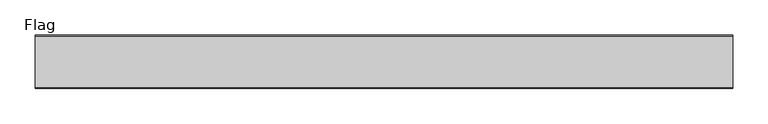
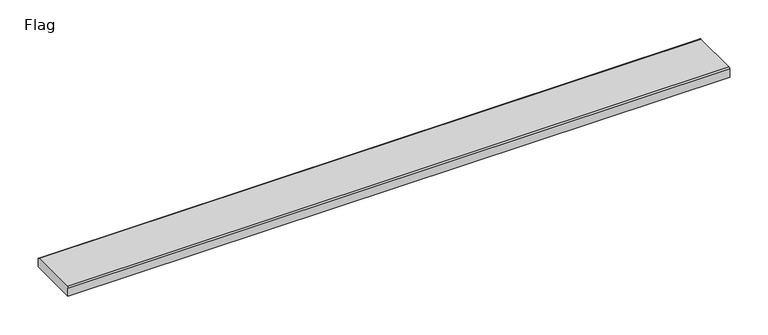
"""IFC4 building model written with IfcOpenShell, lengths in millimetres: sanitary terminal geometry, ZZZ_do not use_PF_UN_grating for ShowerDrain E and M series_ACO : Flag."""

from ifc_helpers import new_model, si_unit, point, frame, frame_2d, origin, place, context, project, spatial, polyline, circle_curve, trimmed, segment, composite_curve, outline, extrude, source, transform, mapped, element, save


def flag_560d45e0(model_context):
    return source(origin(), model_context, "Body", "SweptSolid", [
        extrude(outline(composite_curve([segment(polyline([(38.5, -15.0), (-38.5, -15.0), (-38.5, -1.977849)]), True, "CONTINUOUS"), segment(trimmed(circle_curve(frame_2d((-36.522151, -1.977849)), 1.977849), [point((-38.5, -1.977849))], [point((-36.522151, 0.0))], False, "CARTESIAN"), True, "CONTINUOUS"), segment(polyline([(-36.522151, 0.0), (36.522151, 0.0)]), True, "CONTINUOUS"), segment(trimmed(circle_curve(frame_2d((36.522151, -1.977849)), 1.977849), [point((36.522151, 0.0))], [point((38.5, -1.977849))], False, "CARTESIAN"), True, "CONTINUOUS"), segment(polyline([(38.5, -1.977849), (38.5, -15.0)]), True, "CONTINUOUS")], self_intersect=False)), frame((-498.0, 0.0, 0.0), z_axis=(1.0, 0.0, 0.0), x_axis=(0.0, 1.0, 0.0)), (0.0, 0.0, 1.0), 996.0),
    ])


if __name__ == "__main__":
    model = new_model("IFC4")
    model_context = context("Model", 3, world=origin())
    ifc_project = project(units=[si_unit("LENGTHUNIT", "METRE", prefix="MILLI")], contexts=[model_context])
    site = spatial("IfcSite", under=ifc_project)
    building = spatial("IfcBuilding", under=site)
    placement = place(None, origin())
    flag_shape = flag_560d45e0(model_context)
    element("IfcSanitaryTerminal", 1, ObjectType="ZZZ_do not use_PF_UN_grating for ShowerDrain E and M series_ACO : Flag", at=placement, inside=building, context=model_context, shape_type="MappedRepresentation", body=[
        mapped(flag_shape, transform((0.0, 0.0, 0.0), x_axis=(1.0, 0.0, 0.0), y_axis=(0.0, 1.0, 0.0), z_axis=(0.0, 0.0, 1.0))),
    ])
    save(model, "model.ifc")
